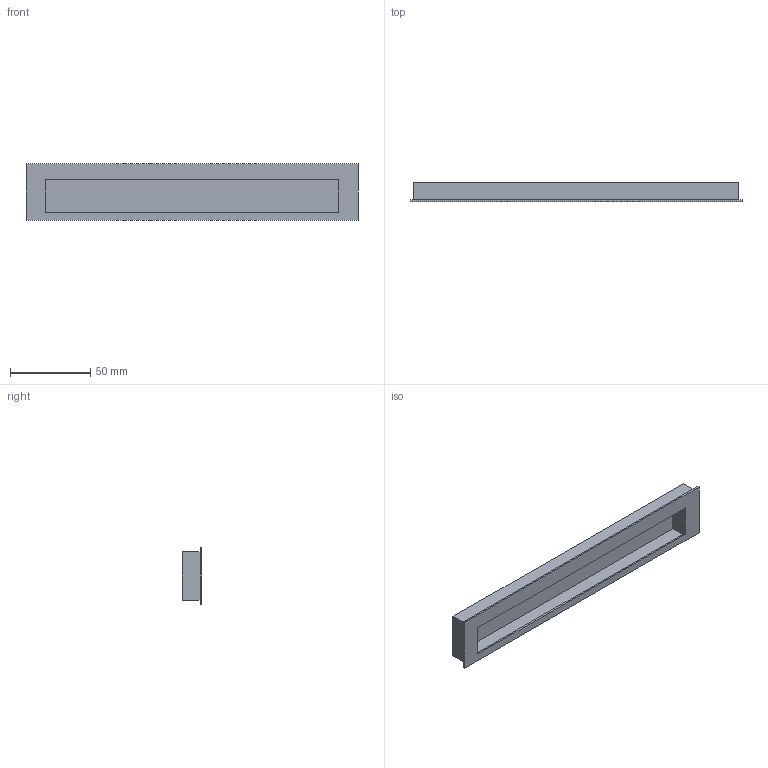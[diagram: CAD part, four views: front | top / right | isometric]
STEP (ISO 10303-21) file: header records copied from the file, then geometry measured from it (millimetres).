
FILE_DESCRIPTION( ( '' ), '1' );
FILE_NAME( 'C:/Documents and Settings/Sachin/Desktop/Sheet 10_1/stp/ 9071075.stp', '2013-10-22T05:56:31', ( '' ), ( '' ), ' ', ' ', ' ' );
FILE_SCHEMA( ( 'CONFIG_CONTROL_DESIGN' ) );
Length unit declared in the file: millimetre
Products named in the file (1): 1
Bounding box: 207 x 12 x 35 mm (x, y, z)
Volume: 19133.9 mm3; surface area: 27855.1 mm2
Topology: 1 solids, 1 shells, 26 faces, 60 edges, 40 vertices
Faces by surface type: plane 22, cylinder 4
Entity records: 776 total; most frequent: CARTESIAN_POINT 127, DIRECTION 122, ORIENTED_EDGE 120, EDGE_CURVE 60, LINE 52, VECTOR 52, VERTEX_POINT 40, AXIS2_PLACEMENT_3D 35
